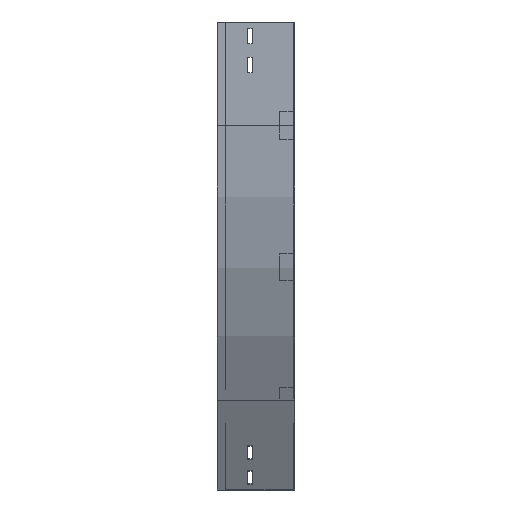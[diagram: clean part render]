
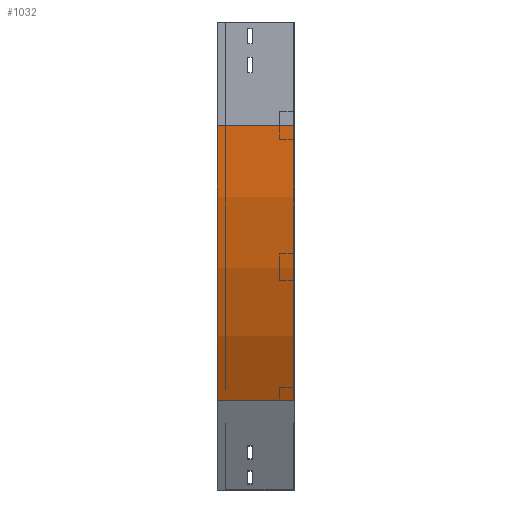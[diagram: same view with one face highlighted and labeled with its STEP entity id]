
A CAD part, left-side view. The second image highlights one B-rep face of the part: STEP entity #1032.
In plain terms, the highlighted cylindrical face has radius 800 mm (diameter 1600 mm), a partial arc.
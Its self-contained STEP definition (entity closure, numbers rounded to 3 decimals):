
#69 = VERTEX_POINT ( 'NONE', #3083 ) ;
#162 = ORIENTED_EDGE ( 'NONE', *, *, #2889, .T. ) ;
#274 = FACE_OUTER_BOUND ( 'NONE', #2701, .T. ) ;
#404 = DIRECTION ( 'NONE',  ( 0., -1., 0. ) ) ;
#417 = ORIENTED_EDGE ( 'NONE', *, *, #2206, .F. ) ;
#495 = VERTEX_POINT ( 'NONE', #1549 ) ;
#526 = DIRECTION ( 'NONE',  ( -1., 0., 0. ) ) ;
#687 = AXIS2_PLACEMENT_3D ( 'NONE', #850, #1104, #3537 ) ;
#735 = VECTOR ( 'NONE', #404, 1000. ) ;
#850 = CARTESIAN_POINT ( 'NONE',  ( 800., 112.5, -150. ) ) ;
#948 = VERTEX_POINT ( 'NONE', #2510 ) ;
#1032 = ADVANCED_FACE ( 'NONE', ( #274 ), #2317, .T. ) ;
#1104 = DIRECTION ( 'NONE',  ( 0., -1., 0. ) ) ;
#1151 = CARTESIAN_POINT ( 'NONE',  ( 800., 0., -150. ) ) ;
#1270 = CARTESIAN_POINT ( 'NONE',  ( 107.18, 0., -550. ) ) ;
#1441 = CARTESIAN_POINT ( 'NONE',  ( 800., 0., -150. ) ) ;
#1524 = AXIS2_PLACEMENT_3D ( 'NONE', #1441, #2616, #2110 ) ;
#1549 = CARTESIAN_POINT ( 'NONE',  ( 0., 0., -150. ) ) ;
#1567 = VERTEX_POINT ( 'NONE', #2930 ) ;
#1670 = ORIENTED_EDGE ( 'NONE', *, *, #2040, .F. ) ;
#1920 = CARTESIAN_POINT ( 'NONE',  ( 0., 0., -150. ) ) ;
#1963 = VECTOR ( 'NONE', #2556, 1000. ) ;
#2000 = DIRECTION ( 'NONE',  ( 0., -1., 0. ) ) ;
#2027 = AXIS2_PLACEMENT_3D ( 'NONE', #1151, #2000, #526 ) ;
#2040 = EDGE_CURVE ( 'NONE', #495, #1567, #3335, .T. ) ;
#2110 = DIRECTION ( 'NONE',  ( 0., 0., -1. ) ) ;
#2206 = EDGE_CURVE ( 'NONE', #948, #495, #3400, .T. ) ;
#2317 = CYLINDRICAL_SURFACE ( 'NONE', #1524, 800. ) ;
#2510 = CARTESIAN_POINT ( 'NONE',  ( 0., 112.5, -150. ) ) ;
#2556 = DIRECTION ( 'NONE',  ( 0., -1., 0. ) ) ;
#2616 = DIRECTION ( 'NONE',  ( 0., -1., 0. ) ) ;
#2701 = EDGE_LOOP ( 'NONE', ( #1670, #417, #3655, #162 ) ) ;
#2889 = EDGE_CURVE ( 'NONE', #69, #1567, #3019, .T. ) ;
#2930 = CARTESIAN_POINT ( 'NONE',  ( 107.18, 0., -550. ) ) ;
#3019 = LINE ( 'NONE', #1270, #735 ) ;
#3083 = CARTESIAN_POINT ( 'NONE',  ( 107.18, 112.5, -550. ) ) ;
#3335 = CIRCLE ( 'NONE', #2027, 800. ) ;
#3400 = LINE ( 'NONE', #1920, #1963 ) ;
#3537 = DIRECTION ( 'NONE',  ( -1., 0., 0. ) ) ;
#3597 = CIRCLE ( 'NONE', #687, 800. ) ;
#3655 = ORIENTED_EDGE ( 'NONE', *, *, #3691, .T. ) ;
#3691 = EDGE_CURVE ( 'NONE', #948, #69, #3597, .T. ) ;
